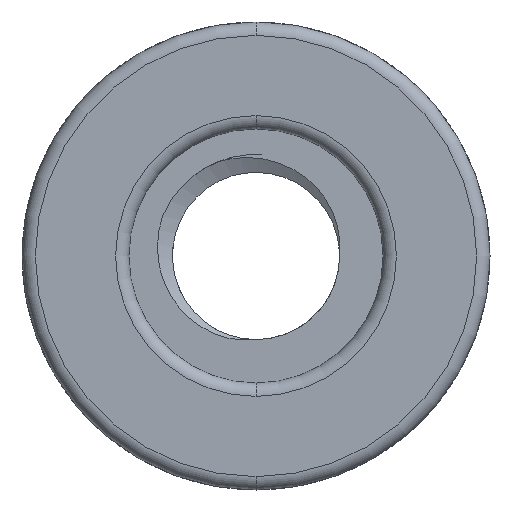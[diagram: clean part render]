
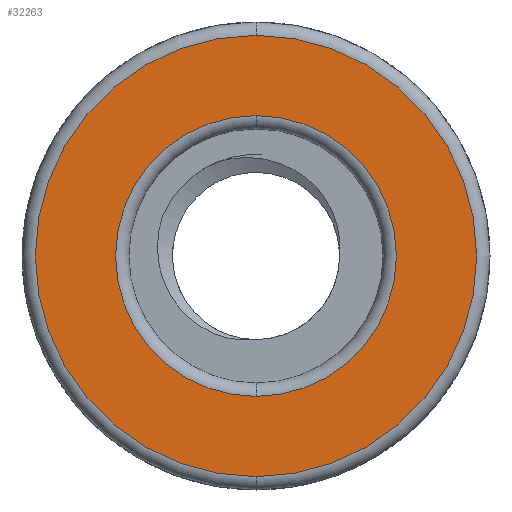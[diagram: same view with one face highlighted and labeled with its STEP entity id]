
A CAD part, front view. The second image highlights one B-rep face of the part: STEP entity #32263.
In plain terms, the highlighted planar face has unit normal (0, -1, 0).
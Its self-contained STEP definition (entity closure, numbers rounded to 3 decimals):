
#2808 = CARTESIAN_POINT ( 'NONE',  ( 0., 0., -3.3 ) ) ;
#3165 = ORIENTED_EDGE ( 'NONE', *, *, #43030, .T. ) ;
#3689 = CIRCLE ( 'NONE', #21598, 2.1 ) ;
#6127 = DIRECTION ( 'NONE',  ( 0., 0., -1. ) ) ;
#6704 = AXIS2_PLACEMENT_3D ( 'NONE', #14246, #41193, #10427 ) ;
#8877 = CARTESIAN_POINT ( 'NONE',  ( 0., 0., -2.1 ) ) ;
#9634 = ORIENTED_EDGE ( 'NONE', *, *, #10989, .T. ) ;
#10205 = CIRCLE ( 'NONE', #31317, 3.3 ) ;
#10427 = DIRECTION ( 'NONE',  ( 0., 0., -1. ) ) ;
#10989 = EDGE_CURVE ( 'NONE', #15705, #50198, #26180, .T. ) ;
#13485 = DIRECTION ( 'NONE',  ( 0., -1., 0. ) ) ;
#14246 = CARTESIAN_POINT ( 'NONE',  ( 0., 0., 0. ) ) ;
#14581 = CIRCLE ( 'NONE', #26783, 3.3 ) ;
#15499 = DIRECTION ( 'NONE',  ( 0., 0., -1. ) ) ;
#15705 = VERTEX_POINT ( 'NONE', #29053 ) ;
#16460 = DIRECTION ( 'NONE',  ( 0., 0., -1. ) ) ;
#17217 = DIRECTION ( 'NONE',  ( 0., -1., 0. ) ) ;
#17475 = CARTESIAN_POINT ( 'NONE',  ( 0., 0., 0. ) ) ;
#19077 = FACE_OUTER_BOUND ( 'NONE', #42849, .T. ) ;
#21598 = AXIS2_PLACEMENT_3D ( 'NONE', #40952, #33312, #6127 ) ;
#23639 = PLANE ( 'NONE',  #35741 ) ;
#26180 = CIRCLE ( 'NONE', #6704, 2.1 ) ;
#26783 = AXIS2_PLACEMENT_3D ( 'NONE', #41189, #13485, #44230 ) ;
#27202 = CARTESIAN_POINT ( 'NONE',  ( 0., 0., -3.5 ) ) ;
#28294 = VERTEX_POINT ( 'NONE', #45338 ) ;
#29053 = CARTESIAN_POINT ( 'NONE',  ( 0., 0., 2.1 ) ) ;
#30184 = EDGE_CURVE ( 'NONE', #41478, #28294, #14581, .T. ) ;
#31317 = AXIS2_PLACEMENT_3D ( 'NONE', #17475, #17217, #16460 ) ;
#32263 = ADVANCED_FACE ( 'NONE', ( #46238, #19077 ), #23639, .T. ) ;
#33312 = DIRECTION ( 'NONE',  ( 0., 1., 0. ) ) ;
#35741 = AXIS2_PLACEMENT_3D ( 'NONE', #27202, #43192, #15499 ) ;
#40952 = CARTESIAN_POINT ( 'NONE',  ( 0., 0., 0. ) ) ;
#41189 = CARTESIAN_POINT ( 'NONE',  ( 0., 0., 0. ) ) ;
#41193 = DIRECTION ( 'NONE',  ( 0., 1., 0. ) ) ;
#41478 = VERTEX_POINT ( 'NONE', #2808 ) ;
#41668 = EDGE_CURVE ( 'NONE', #28294, #41478, #10205, .T. ) ;
#42285 = ORIENTED_EDGE ( 'NONE', *, *, #41668, .T. ) ;
#42849 = EDGE_LOOP ( 'NONE', ( #44961, #42285 ) ) ;
#43030 = EDGE_CURVE ( 'NONE', #50198, #15705, #3689, .T. ) ;
#43192 = DIRECTION ( 'NONE',  ( 0., -1., 0. ) ) ;
#44162 = EDGE_LOOP ( 'NONE', ( #3165, #9634 ) ) ;
#44230 = DIRECTION ( 'NONE',  ( 0., 0., -1. ) ) ;
#44961 = ORIENTED_EDGE ( 'NONE', *, *, #30184, .T. ) ;
#45338 = CARTESIAN_POINT ( 'NONE',  ( 0., 0., 3.3 ) ) ;
#46238 = FACE_BOUND ( 'NONE', #44162, .T. ) ;
#50198 = VERTEX_POINT ( 'NONE', #8877 ) ;
